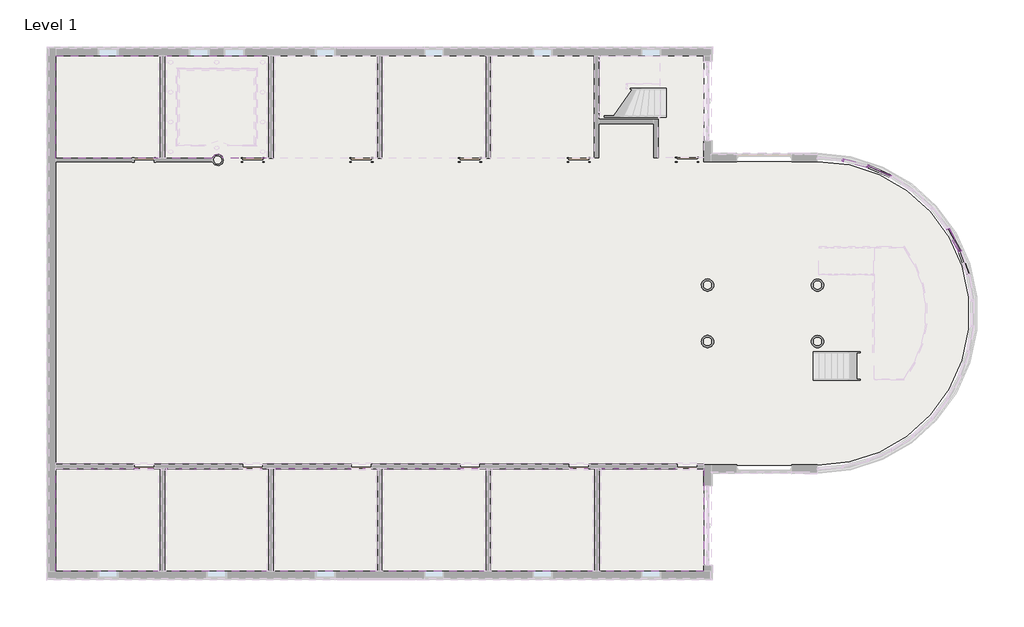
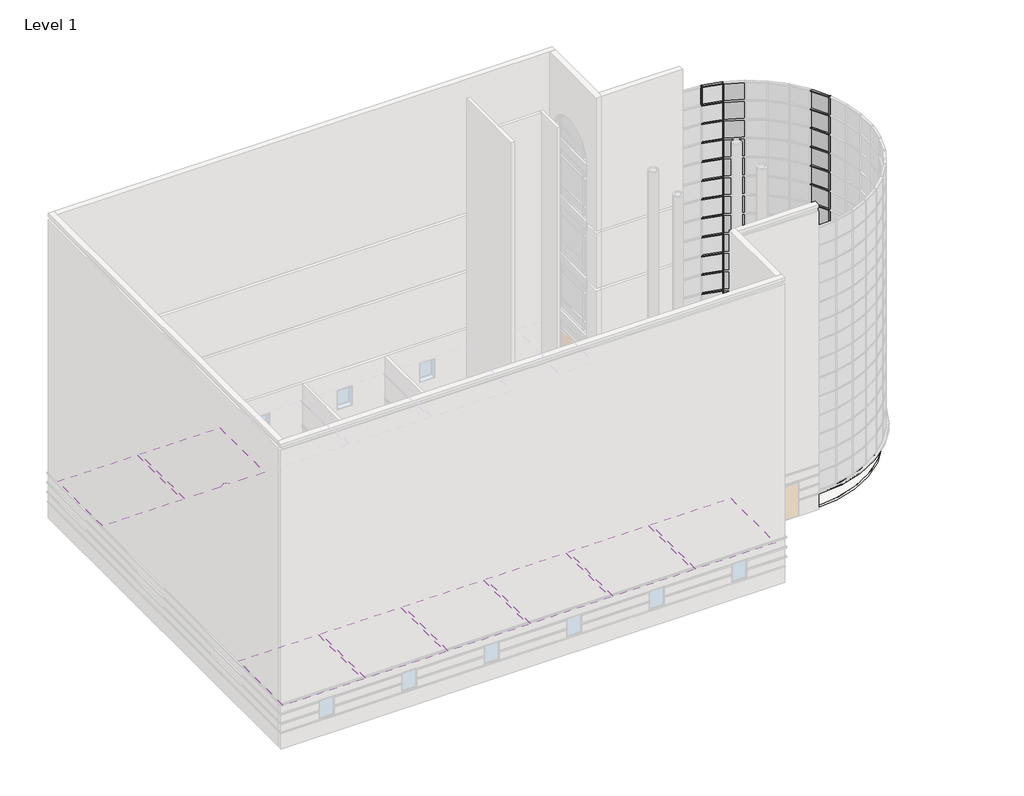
# One storey, part 15 of 20: 59 members, 28 plates, 8 coverings, 1 slab.
"""IFC4 building model written with IfcOpenShell, lengths in millimetres."""

from ifc_helpers import new_model, si_unit, point, frame, frame_2d, origin, place, context, project, spatial, polyline, circle_curve, trimmed, segment, composite_curve, outline, extrude, transform, mapped, element, save
from components import member_68fe8548, member_f830fa99, member_935f61b8, system_panel_glazed_da602fa6, system_panel_glazed_77fd207e

model = new_model("IFC4")

# Units and contexts
model_context = context("Model", 3, world=origin())
ifc_project = project(units=[si_unit("LENGTHUNIT", "METRE", prefix="MILLI")], contexts=[model_context])

# Site, building, storey
site = spatial("IfcSite", under=ifc_project)
building = spatial("IfcBuilding", under=site)
storey = spatial("IfcBuildingStorey", under=building, Name="Level 1", Elevation=0.0)

# Coverings
placement = place(None, origin())
element("IfcCovering", 1, ObjectType="2' x 4' ACT System", at=placement, inside=storey, context=model_context, shape_type="SweptSolid", body=[
    extrude(outline(polyline([(-17066.4410279, 4612.5398319), (-17066.4410279, 9333.7648319), (-12240.9701946, 9333.7648319), (-12240.9701946, 4612.5398319), (-17066.4410279, 4612.5398319)])), frame((0.0, 0.0, 2438.4), z_axis=(0.0, 0.0, 1.0), x_axis=(1.0, 0.0, 0.0)), (0.0, 0.0, 1.0), 57.15),
])
element("IfcCovering", 2, ObjectType="2' x 4' ACT System", at=placement, inside=storey, context=model_context, shape_type="SweptSolid", body=[
    extrude(outline(polyline([(12708.7089721, -9624.1601681), (12708.7089721, -14345.3851681), (7883.2381388, -14345.3851681), (7883.2381388, -9624.1601681), (12708.7089721, -9624.1601681)])), frame((0.0, 0.0, 2438.4), z_axis=(0.0, 0.0, 1.0), x_axis=(1.0, 0.0, 0.0)), (0.0, 0.0, 1.0), 57.15),
])
element("IfcCovering", 3, ObjectType="2' x 4' ACT System", at=placement, inside=storey, context=model_context, shape_type="SweptSolid", body=[
    extrude(outline(polyline([(7727.6631388, -14345.3851681), (2891.0798054, -14345.3851681), (2891.0798054, -9624.1601681), (7727.6631388, -9624.1601681), (7727.6631388, -14345.3851681)])), frame((0.0, 0.0, 2438.4), z_axis=(0.0, 0.0, 1.0), x_axis=(1.0, 0.0, 0.0)), (0.0, 0.0, 1.0), 57.15),
])
element("IfcCovering", 4, ObjectType="2' x 4' ACT System", at=placement, inside=storey, context=model_context, shape_type="SweptSolid", body=[
    extrude(outline(polyline([(2735.5048054, -14345.3851681), (-2101.0785279, -14345.3851681), (-2101.0785279, -9624.1601681), (2735.5048054, -9624.1601681), (2735.5048054, -14345.3851681)])), frame((0.0, 0.0, 2438.4), z_axis=(0.0, 0.0, 1.0), x_axis=(1.0, 0.0, 0.0)), (0.0, 0.0, 1.0), 57.15),
])
element("IfcCovering", 5, ObjectType="2' x 4' ACT System", at=placement, inside=storey, context=model_context, shape_type="SweptSolid", body=[
    extrude(outline(polyline([(-2256.6535279, -14345.3851681), (-7093.2368612, -14345.3851681), (-7093.2368612, -9624.1601681), (-2256.6535279, -9624.1601681), (-2256.6535279, -14345.3851681)])), frame((0.0, 0.0, 2438.4), z_axis=(0.0, 0.0, 1.0), x_axis=(1.0, 0.0, 0.0)), (0.0, 0.0, 1.0), 57.15),
])
element("IfcCovering", 6, ObjectType="2' x 4' ACT System", at=placement, inside=storey, context=model_context, shape_type="SweptSolid", body=[
    extrude(outline(polyline([(-7248.8118612, -14345.3851681), (-12085.3951946, -14345.3851681), (-12085.3951946, -9624.1601681), (-7248.8118612, -9624.1601681), (-7248.8118612, -14345.3851681)])), frame((0.0, 0.0, 2438.4), z_axis=(0.0, 0.0, 1.0), x_axis=(1.0, 0.0, 0.0)), (0.0, 0.0, 1.0), 57.15),
])
element("IfcCovering", 7, ObjectType="2' x 4' ACT System", at=placement, inside=storey, context=model_context, shape_type="SweptSolid", body=[
    extrude(outline(polyline([(-12240.9701946, -14345.3851681), (-17066.4410279, -14345.3851681), (-17066.4410279, -9624.1601681), (-12240.9701946, -9624.1601681), (-12240.9701946, -14345.3851681)])), frame((0.0, 0.0, 2438.4), z_axis=(0.0, 0.0, 1.0), x_axis=(1.0, 0.0, 0.0)), (0.0, 0.0, 1.0), 57.15),
])
element("IfcCovering", 8, ObjectType="GWB on Mtl. Stud", at=placement, inside=storey, context=model_context, shape_type="SweptSolid", body=[
    extrude(outline(composite_curve([segment(polyline([(-12085.3951946, 4612.5398319), (-12085.3951946, 9333.7648319), (-7248.8118612, 9333.7648319), (-7248.8118612, 4612.5398319), (-9370.870823, 4612.5398319)]), True, "CONTINUOUS"), segment(trimmed(circle_curve(frame_2d((-9622.6535279, 4534.7523319)), 263.525), [point((-9370.870823, 4612.5398319))], [point((-9874.4362328, 4612.5398319))], True, "CARTESIAN"), True, "CONTINUOUS"), segment(polyline([(-9874.4362328, 4612.5398319), (-12085.3951946, 4612.5398319)]), True, "CONTINUOUS")], self_intersect=False), holes=[composite_curve([segment(trimmed(circle_curve(frame_2d((-11780.5951946, 9028.9648319)), 101.6), [point((-11678.9951946, 9028.9648319))], [point((-11882.1951946, 9028.9648319))], True, "CARTESIAN"), True, "CONTINUOUS"), segment(trimmed(circle_curve(frame_2d((-11780.5951946, 9028.9648319)), 101.6), [point((-11882.1951946, 9028.9648319))], [point((-11678.9951946, 9028.9648319))], True, "CARTESIAN"), True, "CONTINUOUS")], self_intersect=False), composite_curve([segment(trimmed(circle_curve(frame_2d((-7553.6118612, 9028.9648319)), 101.6), [point((-7452.0118612, 9028.9648319))], [point((-7655.2118612, 9028.9648319))], True, "CARTESIAN"), True, "CONTINUOUS"), segment(trimmed(circle_curve(frame_2d((-7553.6118612, 9028.9648319)), 101.6), [point((-7655.2118612, 9028.9648319))], [point((-7452.0118612, 9028.9648319))], True, "CARTESIAN"), True, "CONTINUOUS")], self_intersect=False), composite_curve([segment(trimmed(circle_curve(frame_2d((-9667.1035279, 9028.9648319)), 101.6), [point((-9565.5035279, 9028.9648319))], [point((-9768.7035279, 9028.9648319))], True, "CARTESIAN"), True, "CONTINUOUS"), segment(trimmed(circle_curve(frame_2d((-9667.1035279, 9028.9648319)), 101.6), [point((-9768.7035279, 9028.9648319))], [point((-9565.5035279, 9028.9648319))], True, "CARTESIAN"), True, "CONTINUOUS")], self_intersect=False), composite_curve([segment(trimmed(circle_curve(frame_2d((-7553.6118612, 4917.3398319)), 101.6), [point((-7452.0118612, 4917.3398319))], [point((-7655.2118612, 4917.3398319))], True, "CARTESIAN"), True, "CONTINUOUS"), segment(trimmed(circle_curve(frame_2d((-7553.6118612, 4917.3398319)), 101.6), [point((-7655.2118612, 4917.3398319))], [point((-7452.0118612, 4917.3398319))], True, "CARTESIAN"), True, "CONTINUOUS")], self_intersect=False), composite_curve([segment(trimmed(circle_curve(frame_2d((-11780.5951946, 4917.3398319)), 101.6), [point((-11678.9951946, 4917.3398319))], [point((-11882.1951946, 4917.3398319))], True, "CARTESIAN"), True, "CONTINUOUS"), segment(trimmed(circle_curve(frame_2d((-11780.5951946, 4917.3398319)), 101.6), [point((-11882.1951946, 4917.3398319))], [point((-11678.9951946, 4917.3398319))], True, "CARTESIAN"), True, "CONTINUOUS")], self_intersect=False), composite_curve([segment(trimmed(circle_curve(frame_2d((-7553.6118612, 6287.8814986)), 101.6), [point((-7452.0118612, 6287.8814986))], [point((-7655.2118612, 6287.8814986))], True, "CARTESIAN"), True, "CONTINUOUS"), segment(trimmed(circle_curve(frame_2d((-7553.6118612, 6287.8814986)), 101.6), [point((-7655.2118612, 6287.8814986))], [point((-7452.0118612, 6287.8814986))], True, "CARTESIAN"), True, "CONTINUOUS")], self_intersect=False), composite_curve([segment(trimmed(circle_curve(frame_2d((-11780.5951946, 6287.8814986)), 101.6), [point((-11678.9951946, 6287.8814986))], [point((-11882.1951946, 6287.8814986))], True, "CARTESIAN"), True, "CONTINUOUS"), segment(trimmed(circle_curve(frame_2d((-11780.5951946, 6287.8814986)), 101.6), [point((-11882.1951946, 6287.8814986))], [point((-11678.9951946, 6287.8814986))], True, "CARTESIAN"), True, "CONTINUOUS")], self_intersect=False), composite_curve([segment(trimmed(circle_curve(frame_2d((-7553.6118612, 7658.4231653)), 101.6), [point((-7452.0118612, 7658.4231653))], [point((-7655.2118612, 7658.4231653))], True, "CARTESIAN"), True, "CONTINUOUS"), segment(trimmed(circle_curve(frame_2d((-7553.6118612, 7658.4231653)), 101.6), [point((-7655.2118612, 7658.4231653))], [point((-7452.0118612, 7658.4231653))], True, "CARTESIAN"), True, "CONTINUOUS")], self_intersect=False), composite_curve([segment(trimmed(circle_curve(frame_2d((-11780.5951946, 7658.4231653)), 101.6), [point((-11678.9951946, 7658.4231653))], [point((-11882.1951946, 7658.4231653))], True, "CARTESIAN"), True, "CONTINUOUS"), segment(trimmed(circle_curve(frame_2d((-11780.5951946, 7658.4231653)), 101.6), [point((-11882.1951946, 7658.4231653))], [point((-11678.9951946, 7658.4231653))], True, "CARTESIAN"), True, "CONTINUOUS")], self_intersect=False), composite_curve([segment(trimmed(circle_curve(frame_2d((-9667.1035279, 5095.1398319)), 101.6), [point((-9768.7035279, 5095.1398319))], [point((-9565.5035279, 5095.1398319))], True, "CARTESIAN"), True, "CONTINUOUS"), segment(trimmed(circle_curve(frame_2d((-9667.1035279, 5095.1398319)), 101.6), [point((-9565.5035279, 5095.1398319))], [point((-9768.7035279, 5095.1398319))], True, "CARTESIAN"), True, "CONTINUOUS")], self_intersect=False), composite_curve([segment(polyline([(-11475.7951946, 8724.1648319), (-11475.7951946, 5222.1398319), (-10161.0267167, 5222.1398319)]), True, "CONTINUOUS"), segment(trimmed(circle_curve(frame_2d((-9622.6535279, 4534.7523319)), 873.125), [point((-10161.0267167, 5222.1398319))], [point((-9084.2803391, 5222.1398319))], False, "CARTESIAN"), True, "CONTINUOUS"), segment(polyline([(-9084.2803391, 5222.1398319), (-7858.4118612, 5222.1398319), (-7858.4118612, 8724.1648319), (-11475.7951946, 8724.1648319)]), True, "CONTINUOUS")], self_intersect=False)]), frame((0.0, 0.0, 2438.4), z_axis=(0.0, 0.0, 1.0), x_axis=(1.0, 0.0, 0.0)), (0.0, 0.0, 1.0), 107.95),
])

# Members
member_shape = member_68fe8548(model_context)
element("IfcMember", 9, ObjectType="Rectangular Mullion : 2.5\" x 5\" rectangular", at=placement, inside=storey, context=model_context, shape_type="MappedRepresentation", body=[
    mapped(member_shape, transform((20225.1809709, 4254.1614601, 17983.2), x_axis=(0.0, 0.0, 1.0), y_axis=(-0.2454854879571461, -0.9694002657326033, 0.0), z_axis=(0.9694002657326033, -0.2454854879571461, 0.0))),
])
element("IfcMember", 10, ObjectType="Rectangular Mullion : 2.5\" x 5\" rectangular", at=placement, inside=storey, context=model_context, shape_type="MappedRepresentation", body=[
    mapped(member_shape, transform((24460.516975, 389.8117372, 17983.2), x_axis=(0.0, 0.0, 1.0), y_axis=(-0.8794737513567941, -0.47594739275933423, 0.0), z_axis=(0.47594739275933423, -0.8794737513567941, 0.0))),
])
element("IfcMember", 11, ObjectType="Rectangular Mullion : 2.5\" x 5\" rectangular", at=placement, inside=storey, context=model_context, shape_type="MappedRepresentation", body=[
    mapped(member_shape, transform((20285.0352325, 4233.6134661, 1092.2), x_axis=(0.0, 0.0, -1.0), y_axis=(-0.40169542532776, -0.9157733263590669, 0.0), z_axis=(-0.9157733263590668, 0.4016954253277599, 0.0))),
])
element("IfcMember", 12, ObjectType="Rectangular Mullion : 2.5\" x 5\" rectangular", at=placement, inside=storey, context=model_context, shape_type="MappedRepresentation", body=[
    mapped(member_shape, transform((24485.9375128, 331.8587482, 1092.2), x_axis=(0.0, 0.0, -1.0), y_axis=(-0.9458172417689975, -0.3246994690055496, 0.0), z_axis=(-0.3246994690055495, 0.9458172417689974, 0.0))),
])
member_2_shape = member_f830fa99(model_context)
element("IfcMember", 13, ObjectType="Rectangular Mullion : 2.5\" x 5\" rectangular", at=placement, inside=storey, context=model_context, shape_type="MappedRepresentation", body=[
    mapped(member_2_shape, transform((20225.1809709, 4254.1614601, 2298.7), x_axis=(0.0, 0.0, 1.0), y_axis=(-0.24548548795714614, -0.9694002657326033, 0.0), z_axis=(0.9694002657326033, -0.24548548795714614, 0.0))),
])
element("IfcMember", 14, ObjectType="Rectangular Mullion : 2.5\" x 5\" rectangular", at=placement, inside=storey, context=model_context, shape_type="MappedRepresentation", body=[
    mapped(member_2_shape, transform((24460.516975, 389.8117372, 2298.7), x_axis=(0.0, 0.0, 1.0), y_axis=(-0.8794737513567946, -0.47594739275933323, 0.0), z_axis=(0.47594739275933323, -0.8794737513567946, 0.0))),
])
element("IfcMember", 15, ObjectType="Rectangular Mullion : 2.5\" x 5\" rectangular", at=placement, inside=storey, context=model_context, shape_type="MappedRepresentation", body=[
    mapped(member_2_shape, transform((20225.1809709, 4254.1614601, 3505.2), x_axis=(0.0, 0.0, 1.0), y_axis=(-0.24548548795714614, -0.9694002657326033, 0.0), z_axis=(0.9694002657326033, -0.24548548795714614, 0.0))),
])
element("IfcMember", 16, ObjectType="Rectangular Mullion : 2.5\" x 5\" rectangular", at=placement, inside=storey, context=model_context, shape_type="MappedRepresentation", body=[
    mapped(member_2_shape, transform((24460.516975, 389.8117372, 3505.2), x_axis=(0.0, 0.0, 1.0), y_axis=(-0.8794737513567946, -0.47594739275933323, 0.0), z_axis=(0.47594739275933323, -0.8794737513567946, 0.0))),
])
element("IfcMember", 17, ObjectType="Rectangular Mullion : 2.5\" x 5\" rectangular", at=placement, inside=storey, context=model_context, shape_type="MappedRepresentation", body=[
    mapped(member_2_shape, transform((20225.1809709, 4254.1614601, 4711.7), x_axis=(0.0, 0.0, 1.0), y_axis=(-0.24548548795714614, -0.9694002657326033, 0.0), z_axis=(0.9694002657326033, -0.24548548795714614, 0.0))),
])
element("IfcMember", 18, ObjectType="Rectangular Mullion : 2.5\" x 5\" rectangular", at=placement, inside=storey, context=model_context, shape_type="MappedRepresentation", body=[
    mapped(member_2_shape, transform((24460.516975, 389.8117372, 4711.7), x_axis=(0.0, 0.0, 1.0), y_axis=(-0.8794737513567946, -0.47594739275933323, 0.0), z_axis=(0.47594739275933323, -0.8794737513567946, 0.0))),
])
element("IfcMember", 19, ObjectType="Rectangular Mullion : 2.5\" x 5\" rectangular", at=placement, inside=storey, context=model_context, shape_type="MappedRepresentation", body=[
    mapped(member_2_shape, transform((20225.1809709, 4254.1614601, 5918.2), x_axis=(0.0, 0.0, 1.0), y_axis=(-0.24548548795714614, -0.9694002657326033, 0.0), z_axis=(0.9694002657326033, -0.24548548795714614, 0.0))),
])
element("IfcMember", 20, ObjectType="Rectangular Mullion : 2.5\" x 5\" rectangular", at=placement, inside=storey, context=model_context, shape_type="MappedRepresentation", body=[
    mapped(member_2_shape, transform((24460.516975, 389.8117372, 5918.2), x_axis=(0.0, 0.0, 1.0), y_axis=(-0.8794737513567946, -0.47594739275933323, 0.0), z_axis=(0.47594739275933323, -0.8794737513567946, 0.0))),
])
element("IfcMember", 21, ObjectType="Rectangular Mullion : 2.5\" x 5\" rectangular", at=placement, inside=storey, context=model_context, shape_type="MappedRepresentation", body=[
    mapped(member_2_shape, transform((20225.1809709, 4254.1614601, 7124.7), x_axis=(0.0, 0.0, 1.0), y_axis=(-0.24548548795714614, -0.9694002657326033, 0.0), z_axis=(0.9694002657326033, -0.24548548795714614, 0.0))),
])
element("IfcMember", 22, ObjectType="Rectangular Mullion : 2.5\" x 5\" rectangular", at=placement, inside=storey, context=model_context, shape_type="MappedRepresentation", body=[
    mapped(member_2_shape, transform((24460.516975, 389.8117372, 7124.7), x_axis=(0.0, 0.0, 1.0), y_axis=(-0.8794737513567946, -0.47594739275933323, 0.0), z_axis=(0.47594739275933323, -0.8794737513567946, 0.0))),
])
element("IfcMember", 23, ObjectType="Rectangular Mullion : 2.5\" x 5\" rectangular", at=placement, inside=storey, context=model_context, shape_type="MappedRepresentation", body=[
    mapped(member_2_shape, transform((20225.1809709, 4254.1614601, 8331.2), x_axis=(0.0, 0.0, 1.0), y_axis=(-0.24548548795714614, -0.9694002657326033, 0.0), z_axis=(0.9694002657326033, -0.24548548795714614, 0.0))),
])
element("IfcMember", 24, ObjectType="Rectangular Mullion : 2.5\" x 5\" rectangular", at=placement, inside=storey, context=model_context, shape_type="MappedRepresentation", body=[
    mapped(member_2_shape, transform((24460.516975, 389.8117372, 8331.2), x_axis=(0.0, 0.0, 1.0), y_axis=(-0.8794737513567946, -0.47594739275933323, 0.0), z_axis=(0.47594739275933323, -0.8794737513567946, 0.0))),
])
element("IfcMember", 25, ObjectType="Rectangular Mullion : 2.5\" x 5\" rectangular", at=placement, inside=storey, context=model_context, shape_type="MappedRepresentation", body=[
    mapped(member_2_shape, transform((20225.1809709, 4254.1614601, 9537.7), x_axis=(0.0, 0.0, 1.0), y_axis=(-0.24548548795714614, -0.9694002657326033, 0.0), z_axis=(0.9694002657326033, -0.24548548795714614, 0.0))),
])
element("IfcMember", 26, ObjectType="Rectangular Mullion : 2.5\" x 5\" rectangular", at=placement, inside=storey, context=model_context, shape_type="MappedRepresentation", body=[
    mapped(member_2_shape, transform((24460.516975, 389.8117372, 9537.7), x_axis=(0.0, 0.0, 1.0), y_axis=(-0.8794737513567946, -0.47594739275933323, 0.0), z_axis=(0.47594739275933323, -0.8794737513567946, 0.0))),
])
element("IfcMember", 27, ObjectType="Rectangular Mullion : 2.5\" x 5\" rectangular", at=placement, inside=storey, context=model_context, shape_type="MappedRepresentation", body=[
    mapped(member_2_shape, transform((20225.1809709, 4254.1614601, 10744.2), x_axis=(0.0, 0.0, 1.0), y_axis=(-0.24548548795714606, -0.9694002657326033, 0.0), z_axis=(0.9694002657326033, -0.24548548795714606, 0.0))),
])
element("IfcMember", 28, ObjectType="Rectangular Mullion : 2.5\" x 5\" rectangular", at=placement, inside=storey, context=model_context, shape_type="MappedRepresentation", body=[
    mapped(member_2_shape, transform((24460.516975, 389.8117372, 10744.2), x_axis=(0.0, 0.0, 1.0), y_axis=(-0.8794737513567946, -0.47594739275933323, 0.0), z_axis=(0.47594739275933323, -0.8794737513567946, 0.0))),
])
element("IfcMember", 29, ObjectType="Rectangular Mullion : 2.5\" x 5\" rectangular", at=placement, inside=storey, context=model_context, shape_type="MappedRepresentation", body=[
    mapped(member_2_shape, transform((20225.1809709, 4254.1614601, 11950.7), x_axis=(0.0, 0.0, 1.0), y_axis=(-0.24548548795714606, -0.9694002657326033, 0.0), z_axis=(0.9694002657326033, -0.24548548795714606, 0.0))),
])
element("IfcMember", 30, ObjectType="Rectangular Mullion : 2.5\" x 5\" rectangular", at=placement, inside=storey, context=model_context, shape_type="MappedRepresentation", body=[
    mapped(member_2_shape, transform((24460.516975, 389.8117372, 11950.7), x_axis=(0.0, 0.0, 1.0), y_axis=(-0.879473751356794, -0.4759473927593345, 0.0), z_axis=(0.4759473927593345, -0.879473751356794, 0.0))),
])
element("IfcMember", 31, ObjectType="Rectangular Mullion : 2.5\" x 5\" rectangular", at=placement, inside=storey, context=model_context, shape_type="MappedRepresentation", body=[
    mapped(member_2_shape, transform((20225.1809709, 4254.1614601, 13157.2), x_axis=(0.0, 0.0, 1.0), y_axis=(-0.24548548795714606, -0.9694002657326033, 0.0), z_axis=(0.9694002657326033, -0.24548548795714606, 0.0))),
])
element("IfcMember", 32, ObjectType="Rectangular Mullion : 2.5\" x 5\" rectangular", at=placement, inside=storey, context=model_context, shape_type="MappedRepresentation", body=[
    mapped(member_2_shape, transform((24460.516975, 389.8117372, 13157.2), x_axis=(0.0, 0.0, 1.0), y_axis=(-0.879473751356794, -0.4759473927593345, 0.0), z_axis=(0.4759473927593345, -0.879473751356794, 0.0))),
])
element("IfcMember", 33, ObjectType="Rectangular Mullion : 2.5\" x 5\" rectangular", at=placement, inside=storey, context=model_context, shape_type="MappedRepresentation", body=[
    mapped(member_2_shape, transform((20225.1809709, 4254.1614601, 14363.7), x_axis=(0.0, 0.0, 1.0), y_axis=(-0.24548548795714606, -0.9694002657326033, 0.0), z_axis=(0.9694002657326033, -0.24548548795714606, 0.0))),
])
element("IfcMember", 34, ObjectType="Rectangular Mullion : 2.5\" x 5\" rectangular", at=placement, inside=storey, context=model_context, shape_type="MappedRepresentation", body=[
    mapped(member_2_shape, transform((24460.516975, 389.8117372, 14363.7), x_axis=(0.0, 0.0, 1.0), y_axis=(-0.879473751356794, -0.4759473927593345, 0.0), z_axis=(0.4759473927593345, -0.879473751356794, 0.0))),
])
element("IfcMember", 35, ObjectType="Rectangular Mullion : 2.5\" x 5\" rectangular", at=placement, inside=storey, context=model_context, shape_type="MappedRepresentation", body=[
    mapped(member_2_shape, transform((20225.1809709, 4254.1614601, 15570.2), x_axis=(0.0, 0.0, 1.0), y_axis=(-0.2454854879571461, -0.9694002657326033, 0.0), z_axis=(0.9694002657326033, -0.2454854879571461, 0.0))),
])
element("IfcMember", 36, ObjectType="Rectangular Mullion : 2.5\" x 5\" rectangular", at=placement, inside=storey, context=model_context, shape_type="MappedRepresentation", body=[
    mapped(member_2_shape, transform((24460.516975, 389.8117372, 15570.2), x_axis=(0.0, 0.0, 1.0), y_axis=(-0.8794737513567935, -0.47594739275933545, 0.0), z_axis=(0.47594739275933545, -0.8794737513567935, 0.0))),
])
element("IfcMember", 37, ObjectType="Rectangular Mullion : 2.5\" x 5\" rectangular", at=placement, inside=storey, context=model_context, shape_type="MappedRepresentation", body=[
    mapped(member_2_shape, transform((20225.1809709, 4254.1614601, 16776.7), x_axis=(0.0, 0.0, 1.0), y_axis=(-0.2454854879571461, -0.9694002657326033, 0.0), z_axis=(0.9694002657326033, -0.2454854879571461, 0.0))),
])
element("IfcMember", 38, ObjectType="Rectangular Mullion : 2.5\" x 5\" rectangular", at=placement, inside=storey, context=model_context, shape_type="MappedRepresentation", body=[
    mapped(member_2_shape, transform((24460.516975, 389.8117372, 16776.7), x_axis=(0.0, 0.0, 1.0), y_axis=(-0.8794737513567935, -0.47594739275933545, 0.0), z_axis=(0.47594739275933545, -0.8794737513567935, 0.0))),
])
member_3_shape = member_935f61b8(model_context)
element("IfcMember", 39, ObjectType="Rectangular Mullion : 2.5\" x 5\" rectangular", at=placement, inside=storey, context=model_context, shape_type="MappedRepresentation", body=[
    mapped(member_3_shape, transform((20255.9594293, 4246.3672959, 1092.2), x_axis=(0.9458172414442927, -0.32469946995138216, 0.0), y_axis=(-0.32469946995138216, -0.9458172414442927, 0.0), z_axis=(0.0, 0.0, -1.0))),
])
element("IfcMember", 40, ObjectType="Rectangular Mullion : 2.5\" x 5\" rectangular", at=placement, inside=storey, context=model_context, shape_type="MappedRepresentation", body=[
    mapped(member_3_shape, transform((24475.6283047, 361.8884456, 1092.2), x_axis=(0.40169542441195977, -0.915773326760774, 0.0), y_axis=(-0.915773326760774, -0.40169542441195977, 0.0), z_axis=(0.0, 0.0, -1.0))),
])
element("IfcMember", 41, ObjectType="Rectangular Mullion : 2.5\" x 5\" rectangular", at=placement, inside=storey, context=model_context, shape_type="MappedRepresentation", body=[
    mapped(member_3_shape, transform((20255.9594293, 4246.3672959, 2298.7), x_axis=(0.945817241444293, -0.3246994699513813, 0.0), y_axis=(-0.3246994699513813, -0.945817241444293, 0.0), z_axis=(0.0, 0.0, -1.0))),
])
element("IfcMember", 42, ObjectType="Rectangular Mullion : 2.5\" x 5\" rectangular", at=placement, inside=storey, context=model_context, shape_type="MappedRepresentation", body=[
    mapped(member_3_shape, transform((24475.6283047, 361.8884456, 2298.7), x_axis=(0.40169542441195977, -0.915773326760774, 0.0), y_axis=(-0.915773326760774, -0.40169542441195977, 0.0), z_axis=(0.0, 0.0, -1.0))),
])
element("IfcMember", 43, ObjectType="Rectangular Mullion : 2.5\" x 5\" rectangular", at=placement, inside=storey, context=model_context, shape_type="MappedRepresentation", body=[
    mapped(member_3_shape, transform((20255.9594293, 4246.3672959, 3505.2), x_axis=(0.945817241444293, -0.3246994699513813, 0.0), y_axis=(-0.3246994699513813, -0.945817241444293, 0.0), z_axis=(0.0, 0.0, -1.0))),
])
element("IfcMember", 44, ObjectType="Rectangular Mullion : 2.5\" x 5\" rectangular", at=placement, inside=storey, context=model_context, shape_type="MappedRepresentation", body=[
    mapped(member_3_shape, transform((24475.6283047, 361.8884456, 3505.2), x_axis=(0.4016954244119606, -0.9157733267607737, 0.0), y_axis=(-0.9157733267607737, -0.4016954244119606, 0.0), z_axis=(0.0, 0.0, -1.0))),
])
element("IfcMember", 45, ObjectType="Rectangular Mullion : 2.5\" x 5\" rectangular", at=placement, inside=storey, context=model_context, shape_type="MappedRepresentation", body=[
    mapped(member_3_shape, transform((20255.9594293, 4246.3672959, 4711.7), x_axis=(0.945817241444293, -0.3246994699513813, 0.0), y_axis=(-0.3246994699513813, -0.945817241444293, 0.0), z_axis=(0.0, 0.0, -1.0))),
])
element("IfcMember", 46, ObjectType="Rectangular Mullion : 2.5\" x 5\" rectangular", at=placement, inside=storey, context=model_context, shape_type="MappedRepresentation", body=[
    mapped(member_3_shape, transform((24475.6283047, 361.8884456, 4711.7), x_axis=(0.4016954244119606, -0.9157733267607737, 0.0), y_axis=(-0.9157733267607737, -0.4016954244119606, 0.0), z_axis=(0.0, 0.0, -1.0))),
])
element("IfcMember", 47, ObjectType="Rectangular Mullion : 2.5\" x 5\" rectangular", at=placement, inside=storey, context=model_context, shape_type="MappedRepresentation", body=[
    mapped(member_3_shape, transform((20255.9594293, 4246.3672959, 5918.2), x_axis=(0.945817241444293, -0.3246994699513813, 0.0), y_axis=(-0.3246994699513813, -0.945817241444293, 0.0), z_axis=(0.0, 0.0, -1.0))),
])
element("IfcMember", 48, ObjectType="Rectangular Mullion : 2.5\" x 5\" rectangular", at=placement, inside=storey, context=model_context, shape_type="MappedRepresentation", body=[
    mapped(member_3_shape, transform((24475.6283047, 361.8884456, 5918.2), x_axis=(0.4016954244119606, -0.9157733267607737, 0.0), y_axis=(-0.9157733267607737, -0.4016954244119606, 0.0), z_axis=(0.0, 0.0, -1.0))),
])
element("IfcMember", 49, ObjectType="Rectangular Mullion : 2.5\" x 5\" rectangular", at=placement, inside=storey, context=model_context, shape_type="MappedRepresentation", body=[
    mapped(member_3_shape, transform((20255.9594293, 4246.3672959, 7124.7), x_axis=(0.945817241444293, -0.3246994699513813, 0.0), y_axis=(-0.3246994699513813, -0.945817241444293, 0.0), z_axis=(0.0, 0.0, -1.0))),
])
element("IfcMember", 50, ObjectType="Rectangular Mullion : 2.5\" x 5\" rectangular", at=placement, inside=storey, context=model_context, shape_type="MappedRepresentation", body=[
    mapped(member_3_shape, transform((24475.6283047, 361.8884456, 7124.7), x_axis=(0.4016954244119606, -0.9157733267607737, 0.0), y_axis=(-0.9157733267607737, -0.4016954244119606, 0.0), z_axis=(0.0, 0.0, -1.0))),
])
element("IfcMember", 51, ObjectType="Rectangular Mullion : 2.5\" x 5\" rectangular", at=placement, inside=storey, context=model_context, shape_type="MappedRepresentation", body=[
    mapped(member_3_shape, transform((20255.9594293, 4246.3672959, 8331.2), x_axis=(0.945817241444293, -0.3246994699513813, 0.0), y_axis=(-0.3246994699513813, -0.945817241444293, 0.0), z_axis=(0.0, 0.0, -1.0))),
])
element("IfcMember", 52, ObjectType="Rectangular Mullion : 2.5\" x 5\" rectangular", at=placement, inside=storey, context=model_context, shape_type="MappedRepresentation", body=[
    mapped(member_3_shape, transform((24475.6283047, 361.8884456, 8331.2), x_axis=(0.4016954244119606, -0.9157733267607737, 0.0), y_axis=(-0.9157733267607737, -0.4016954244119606, 0.0), z_axis=(0.0, 0.0, -1.0))),
])
element("IfcMember", 53, ObjectType="Rectangular Mullion : 2.5\" x 5\" rectangular", at=placement, inside=storey, context=model_context, shape_type="MappedRepresentation", body=[
    mapped(member_3_shape, transform((20255.9594293, 4246.3672959, 9537.7), x_axis=(0.945817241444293, -0.3246994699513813, 0.0), y_axis=(-0.3246994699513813, -0.945817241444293, 0.0), z_axis=(0.0, 0.0, -1.0))),
])
element("IfcMember", 54, ObjectType="Rectangular Mullion : 2.5\" x 5\" rectangular", at=placement, inside=storey, context=model_context, shape_type="MappedRepresentation", body=[
    mapped(member_3_shape, transform((24475.6283047, 361.8884456, 9537.7), x_axis=(0.40169542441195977, -0.915773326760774, 0.0), y_axis=(-0.915773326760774, -0.40169542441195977, 0.0), z_axis=(0.0, 0.0, -1.0))),
])
element("IfcMember", 55, ObjectType="Rectangular Mullion : 2.5\" x 5\" rectangular", at=placement, inside=storey, context=model_context, shape_type="MappedRepresentation", body=[
    mapped(member_3_shape, transform((20255.9594293, 4246.3672959, 10744.2), x_axis=(0.945817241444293, -0.3246994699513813, 0.0), y_axis=(-0.3246994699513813, -0.945817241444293, 0.0), z_axis=(0.0, 0.0, -1.0))),
])
element("IfcMember", 56, ObjectType="Rectangular Mullion : 2.5\" x 5\" rectangular", at=placement, inside=storey, context=model_context, shape_type="MappedRepresentation", body=[
    mapped(member_3_shape, transform((24475.6283047, 361.8884456, 10744.2), x_axis=(0.40169542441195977, -0.915773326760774, 0.0), y_axis=(-0.915773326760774, -0.40169542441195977, 0.0), z_axis=(0.0, 0.0, -1.0))),
])
element("IfcMember", 57, ObjectType="Rectangular Mullion : 2.5\" x 5\" rectangular", at=placement, inside=storey, context=model_context, shape_type="MappedRepresentation", body=[
    mapped(member_3_shape, transform((20255.9594293, 4246.3672959, 11950.7), x_axis=(0.945817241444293, -0.3246994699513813, 0.0), y_axis=(-0.3246994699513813, -0.945817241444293, 0.0), z_axis=(0.0, 0.0, -1.0))),
])
element("IfcMember", 58, ObjectType="Rectangular Mullion : 2.5\" x 5\" rectangular", at=placement, inside=storey, context=model_context, shape_type="MappedRepresentation", body=[
    mapped(member_3_shape, transform((24475.6283047, 361.8884456, 11950.7), x_axis=(0.40169542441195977, -0.915773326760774, 0.0), y_axis=(-0.915773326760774, -0.40169542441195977, 0.0), z_axis=(0.0, 0.0, -1.0))),
])
element("IfcMember", 59, ObjectType="Rectangular Mullion : 2.5\" x 5\" rectangular", at=placement, inside=storey, context=model_context, shape_type="MappedRepresentation", body=[
    mapped(member_3_shape, transform((20255.9594293, 4246.3672959, 13157.2), x_axis=(0.945817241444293, -0.3246994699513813, 0.0), y_axis=(-0.3246994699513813, -0.945817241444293, 0.0), z_axis=(0.0, 0.0, -1.0))),
])
element("IfcMember", 60, ObjectType="Rectangular Mullion : 2.5\" x 5\" rectangular", at=placement, inside=storey, context=model_context, shape_type="MappedRepresentation", body=[
    mapped(member_3_shape, transform((24475.6283047, 361.8884456, 13157.2), x_axis=(0.40169542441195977, -0.915773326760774, 0.0), y_axis=(-0.915773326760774, -0.40169542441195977, 0.0), z_axis=(0.0, 0.0, -1.0))),
])
element("IfcMember", 61, ObjectType="Rectangular Mullion : 2.5\" x 5\" rectangular", at=placement, inside=storey, context=model_context, shape_type="MappedRepresentation", body=[
    mapped(member_3_shape, transform((20255.9594293, 4246.3672959, 14363.7), x_axis=(0.945817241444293, -0.3246994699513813, 0.0), y_axis=(-0.3246994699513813, -0.945817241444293, 0.0), z_axis=(0.0, 0.0, -1.0))),
])
element("IfcMember", 62, ObjectType="Rectangular Mullion : 2.5\" x 5\" rectangular", at=placement, inside=storey, context=model_context, shape_type="MappedRepresentation", body=[
    mapped(member_3_shape, transform((24475.6283047, 361.8884456, 14363.7), x_axis=(0.40169542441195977, -0.915773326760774, 0.0), y_axis=(-0.915773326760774, -0.40169542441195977, 0.0), z_axis=(0.0, 0.0, -1.0))),
])
element("IfcMember", 63, ObjectType="Rectangular Mullion : 2.5\" x 5\" rectangular", at=placement, inside=storey, context=model_context, shape_type="MappedRepresentation", body=[
    mapped(member_3_shape, transform((20255.9594293, 4246.3672959, 15570.2), x_axis=(0.9458172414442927, -0.32469946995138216, 0.0), y_axis=(-0.32469946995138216, -0.9458172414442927, 0.0), z_axis=(0.0, 0.0, -1.0))),
])
element("IfcMember", 64, ObjectType="Rectangular Mullion : 2.5\" x 5\" rectangular", at=placement, inside=storey, context=model_context, shape_type="MappedRepresentation", body=[
    mapped(member_3_shape, transform((24475.6283047, 361.8884456, 15570.2), x_axis=(0.40169542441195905, -0.9157733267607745, 0.0), y_axis=(-0.9157733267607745, -0.40169542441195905, 0.0), z_axis=(0.0, 0.0, -1.0))),
])
element("IfcMember", 65, ObjectType="Rectangular Mullion : 2.5\" x 5\" rectangular", at=placement, inside=storey, context=model_context, shape_type="MappedRepresentation", body=[
    mapped(member_3_shape, transform((19112.972701, 4535.8108464, 16776.7), x_axis=(0.9863613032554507, -0.16459459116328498, 0.0), y_axis=(-0.16459459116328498, -0.9863613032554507, 0.0), z_axis=(0.0, 0.0, -1.0))),
])
element("IfcMember", 66, ObjectType="Rectangular Mullion : 2.5\" x 5\" rectangular", at=placement, inside=storey, context=model_context, shape_type="MappedRepresentation", body=[
    mapped(member_3_shape, transform((20255.9594293, 4246.3672959, 16776.7), x_axis=(0.9458172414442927, -0.32469946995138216, 0.0), y_axis=(-0.32469946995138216, -0.9458172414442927, 0.0), z_axis=(0.0, 0.0, -1.0))),
])
element("IfcMember", 67, ObjectType="Rectangular Mullion : 2.5\" x 5\" rectangular", at=placement, inside=storey, context=model_context, shape_type="MappedRepresentation", body=[
    mapped(member_3_shape, transform((24475.6283047, 361.8884456, 16776.7), x_axis=(0.40169542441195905, -0.9157733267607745, 0.0), y_axis=(-0.9157733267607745, -0.40169542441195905, 0.0), z_axis=(0.0, 0.0, -1.0))),
])

# Plates
system_panel_glazed_shape = system_panel_glazed_da602fa6(model_context)
element("IfcPlate", 68, ObjectType="System Panel : Glazed", at=placement, inside=storey, context=model_context, shape_type="MappedRepresentation", body=[
    mapped(system_panel_glazed_shape, transform((20795.8379476, 4009.554621, 1155.7), x_axis=(0.9157733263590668, -0.40169542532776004, 0.0), y_axis=(0.40169542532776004, 0.9157733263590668, 0.0), z_axis=(0.0, 0.0, 1.0))),
])
element("IfcPlate", 69, ObjectType="System Panel : Glazed", at=placement, inside=storey, context=model_context, shape_type="MappedRepresentation", body=[
    mapped(system_panel_glazed_shape, transform((24195.041651, 880.3671697, 1155.7), x_axis=(0.4759473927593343, -0.8794737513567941, 0.0), y_axis=(0.8794737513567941, 0.4759473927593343, 0.0), z_axis=(0.0, 0.0, 1.0))),
])
element("IfcPlate", 70, ObjectType="System Panel : Glazed", at=placement, inside=storey, context=model_context, shape_type="MappedRepresentation", body=[
    mapped(system_panel_glazed_shape, transform((20795.8379476, 4009.554621, 16808.45), x_axis=(0.9157733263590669, -0.40169542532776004, 0.0), y_axis=(0.40169542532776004, 0.9157733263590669, 0.0), z_axis=(0.0, 0.0, 1.0))),
])
element("IfcPlate", 71, ObjectType="System Panel : Glazed", at=placement, inside=storey, context=model_context, shape_type="MappedRepresentation", body=[
    mapped(system_panel_glazed_shape, transform((24195.041651, 880.3671697, 16808.45), x_axis=(0.47594739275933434, -0.8794737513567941, 0.0), y_axis=(0.8794737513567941, 0.47594739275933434, 0.0), z_axis=(0.0, 0.0, 1.0))),
])
system_panel_glazed_2_shape = system_panel_glazed_77fd207e(model_context)
element("IfcPlate", 72, ObjectType="System Panel : Glazed", at=placement, inside=storey, context=model_context, shape_type="MappedRepresentation", body=[
    mapped(system_panel_glazed_2_shape, transform((20795.8379476, 4009.554621, 2330.45), x_axis=(0.9157733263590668, -0.40169542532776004, 0.0), y_axis=(0.40169542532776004, 0.9157733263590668, 0.0), z_axis=(0.0, 0.0, 1.0))),
])
element("IfcPlate", 73, ObjectType="System Panel : Glazed", at=placement, inside=storey, context=model_context, shape_type="MappedRepresentation", body=[
    mapped(system_panel_glazed_2_shape, transform((24195.041651, 880.3671697, 2330.45), x_axis=(0.47594739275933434, -0.8794737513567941, 0.0), y_axis=(0.8794737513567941, 0.47594739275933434, 0.0), z_axis=(0.0, 0.0, 1.0))),
])
element("IfcPlate", 74, ObjectType="System Panel : Glazed", at=placement, inside=storey, context=model_context, shape_type="MappedRepresentation", body=[
    mapped(system_panel_glazed_2_shape, transform((20795.8379476, 4009.554621, 3536.95), x_axis=(0.9157733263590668, -0.40169542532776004, 0.0), y_axis=(0.40169542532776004, 0.9157733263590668, 0.0), z_axis=(0.0, 0.0, 1.0))),
])
element("IfcPlate", 75, ObjectType="System Panel : Glazed", at=placement, inside=storey, context=model_context, shape_type="MappedRepresentation", body=[
    mapped(system_panel_glazed_2_shape, transform((24195.041651, 880.3671697, 3536.95), x_axis=(0.47594739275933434, -0.8794737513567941, 0.0), y_axis=(0.8794737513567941, 0.47594739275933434, 0.0), z_axis=(0.0, 0.0, 1.0))),
])
element("IfcPlate", 76, ObjectType="System Panel : Glazed", at=placement, inside=storey, context=model_context, shape_type="MappedRepresentation", body=[
    mapped(system_panel_glazed_2_shape, transform((20795.8379476, 4009.554621, 4743.45), x_axis=(0.9157733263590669, -0.40169542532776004, 0.0), y_axis=(0.40169542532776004, 0.9157733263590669, 0.0), z_axis=(0.0, 0.0, 1.0))),
])
element("IfcPlate", 77, ObjectType="System Panel : Glazed", at=placement, inside=storey, context=model_context, shape_type="MappedRepresentation", body=[
    mapped(system_panel_glazed_2_shape, transform((24195.041651, 880.3671697, 4743.45), x_axis=(0.4759473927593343, -0.8794737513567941, 0.0), y_axis=(0.8794737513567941, 0.4759473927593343, 0.0), z_axis=(0.0, 0.0, 1.0))),
])
element("IfcPlate", 78, ObjectType="System Panel : Glazed", at=placement, inside=storey, context=model_context, shape_type="MappedRepresentation", body=[
    mapped(system_panel_glazed_2_shape, transform((20795.8379476, 4009.554621, 5949.95), x_axis=(0.9157733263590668, -0.40169542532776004, 0.0), y_axis=(0.40169542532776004, 0.9157733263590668, 0.0), z_axis=(0.0, 0.0, 1.0))),
])
element("IfcPlate", 79, ObjectType="System Panel : Glazed", at=placement, inside=storey, context=model_context, shape_type="MappedRepresentation", body=[
    mapped(system_panel_glazed_2_shape, transform((24195.041651, 880.3671697, 5949.95), x_axis=(0.47594739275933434, -0.8794737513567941, 0.0), y_axis=(0.8794737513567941, 0.47594739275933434, 0.0), z_axis=(0.0, 0.0, 1.0))),
])
element("IfcPlate", 80, ObjectType="System Panel : Glazed", at=placement, inside=storey, context=model_context, shape_type="MappedRepresentation", body=[
    mapped(system_panel_glazed_2_shape, transform((20795.8379476, 4009.554621, 7156.45), x_axis=(0.9157733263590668, -0.40169542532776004, 0.0), y_axis=(0.40169542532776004, 0.9157733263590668, 0.0), z_axis=(0.0, 0.0, 1.0))),
])
element("IfcPlate", 81, ObjectType="System Panel : Glazed", at=placement, inside=storey, context=model_context, shape_type="MappedRepresentation", body=[
    mapped(system_panel_glazed_2_shape, transform((24195.041651, 880.3671697, 7156.45), x_axis=(0.47594739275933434, -0.8794737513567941, 0.0), y_axis=(0.8794737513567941, 0.47594739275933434, 0.0), z_axis=(0.0, 0.0, 1.0))),
])
element("IfcPlate", 82, ObjectType="System Panel : Glazed", at=placement, inside=storey, context=model_context, shape_type="MappedRepresentation", body=[
    mapped(system_panel_glazed_2_shape, transform((20795.8379476, 4009.554621, 8362.95), x_axis=(0.9157733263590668, -0.40169542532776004, 0.0), y_axis=(0.40169542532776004, 0.9157733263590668, 0.0), z_axis=(0.0, 0.0, 1.0))),
])
element("IfcPlate", 83, ObjectType="System Panel : Glazed", at=placement, inside=storey, context=model_context, shape_type="MappedRepresentation", body=[
    mapped(system_panel_glazed_2_shape, transform((24195.041651, 880.3671697, 8362.95), x_axis=(0.47594739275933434, -0.8794737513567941, 0.0), y_axis=(0.8794737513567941, 0.47594739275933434, 0.0), z_axis=(0.0, 0.0, 1.0))),
])
element("IfcPlate", 84, ObjectType="System Panel : Glazed", at=placement, inside=storey, context=model_context, shape_type="MappedRepresentation", body=[
    mapped(system_panel_glazed_2_shape, transform((20795.8379476, 4009.554621, 9569.45), x_axis=(0.9157733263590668, -0.40169542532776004, 0.0), y_axis=(0.40169542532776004, 0.9157733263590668, 0.0), z_axis=(0.0, 0.0, 1.0))),
])
element("IfcPlate", 85, ObjectType="System Panel : Glazed", at=placement, inside=storey, context=model_context, shape_type="MappedRepresentation", body=[
    mapped(system_panel_glazed_2_shape, transform((24195.041651, 880.3671697, 9569.45), x_axis=(0.4759473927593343, -0.8794737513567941, 0.0), y_axis=(0.8794737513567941, 0.4759473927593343, 0.0), z_axis=(0.0, 0.0, 1.0))),
])
element("IfcPlate", 86, ObjectType="System Panel : Glazed", at=placement, inside=storey, context=model_context, shape_type="MappedRepresentation", body=[
    mapped(system_panel_glazed_2_shape, transform((20795.8379476, 4009.554621, 10775.95), x_axis=(0.9157733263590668, -0.40169542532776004, 0.0), y_axis=(0.40169542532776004, 0.9157733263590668, 0.0), z_axis=(0.0, 0.0, 1.0))),
])
element("IfcPlate", 87, ObjectType="System Panel : Glazed", at=placement, inside=storey, context=model_context, shape_type="MappedRepresentation", body=[
    mapped(system_panel_glazed_2_shape, transform((24195.041651, 880.3671697, 10775.95), x_axis=(0.47594739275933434, -0.8794737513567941, 0.0), y_axis=(0.8794737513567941, 0.47594739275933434, 0.0), z_axis=(0.0, 0.0, 1.0))),
])
element("IfcPlate", 88, ObjectType="System Panel : Glazed", at=placement, inside=storey, context=model_context, shape_type="MappedRepresentation", body=[
    mapped(system_panel_glazed_2_shape, transform((20795.8379476, 4009.554621, 11982.45), x_axis=(0.9157733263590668, -0.40169542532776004, 0.0), y_axis=(0.40169542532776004, 0.9157733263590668, 0.0), z_axis=(0.0, 0.0, 1.0))),
])
element("IfcPlate", 89, ObjectType="System Panel : Glazed", at=placement, inside=storey, context=model_context, shape_type="MappedRepresentation", body=[
    mapped(system_panel_glazed_2_shape, transform((24195.041651, 880.3671697, 11982.45), x_axis=(0.47594739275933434, -0.8794737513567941, 0.0), y_axis=(0.8794737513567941, 0.47594739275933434, 0.0), z_axis=(0.0, 0.0, 1.0))),
])
element("IfcPlate", 90, ObjectType="System Panel : Glazed", at=placement, inside=storey, context=model_context, shape_type="MappedRepresentation", body=[
    mapped(system_panel_glazed_2_shape, transform((20795.8379476, 4009.554621, 13188.95), x_axis=(0.9157733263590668, -0.40169542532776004, 0.0), y_axis=(0.40169542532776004, 0.9157733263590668, 0.0), z_axis=(0.0, 0.0, 1.0))),
])
element("IfcPlate", 91, ObjectType="System Panel : Glazed", at=placement, inside=storey, context=model_context, shape_type="MappedRepresentation", body=[
    mapped(system_panel_glazed_2_shape, transform((24195.041651, 880.3671697, 13188.95), x_axis=(0.47594739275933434, -0.8794737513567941, 0.0), y_axis=(0.8794737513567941, 0.47594739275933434, 0.0), z_axis=(0.0, 0.0, 1.0))),
])
element("IfcPlate", 92, ObjectType="System Panel : Glazed", at=placement, inside=storey, context=model_context, shape_type="MappedRepresentation", body=[
    mapped(system_panel_glazed_2_shape, transform((20795.8379476, 4009.554621, 14395.45), x_axis=(0.9157733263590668, -0.40169542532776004, 0.0), y_axis=(0.40169542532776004, 0.9157733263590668, 0.0), z_axis=(0.0, 0.0, 1.0))),
])
element("IfcPlate", 93, ObjectType="System Panel : Glazed", at=placement, inside=storey, context=model_context, shape_type="MappedRepresentation", body=[
    mapped(system_panel_glazed_2_shape, transform((24195.041651, 880.3671697, 14395.45), x_axis=(0.47594739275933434, -0.8794737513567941, 0.0), y_axis=(0.8794737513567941, 0.47594739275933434, 0.0), z_axis=(0.0, 0.0, 1.0))),
])
element("IfcPlate", 94, ObjectType="System Panel : Glazed", at=placement, inside=storey, context=model_context, shape_type="MappedRepresentation", body=[
    mapped(system_panel_glazed_2_shape, transform((20795.8379476, 4009.554621, 15601.95), x_axis=(0.9157733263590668, -0.40169542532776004, 0.0), y_axis=(0.40169542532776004, 0.9157733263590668, 0.0), z_axis=(0.0, 0.0, 1.0))),
])
element("IfcPlate", 95, ObjectType="System Panel : Glazed", at=placement, inside=storey, context=model_context, shape_type="MappedRepresentation", body=[
    mapped(system_panel_glazed_2_shape, transform((24195.041651, 880.3671697, 15601.95), x_axis=(0.47594739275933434, -0.8794737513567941, 0.0), y_axis=(0.8794737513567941, 0.47594739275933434, 0.0), z_axis=(0.0, 0.0, 1.0))),
])

# Slab
element("IfcSlab", 96, ObjectType="6\" Slab on Grade", at=placement, inside=storey, context=model_context, shape_type="SweptSolid", body=[
    extrude(outline(composite_curve([segment(polyline([(-17079.1410279, 9346.4648319), (12721.4089721, 9346.4648319), (12721.4089721, 4469.6648319), (17937.9339721, 4469.6648319)]), True, "CONTINUOUS"), segment(trimmed(circle_curve(frame_2d((17937.9339721, -2505.8101681)), 6975.475), [point((17937.9339721, 4469.6648319))], [point((17937.9339721, -9481.2851681))], False, "CARTESIAN"), True, "CONTINUOUS"), segment(polyline([(17937.9339721, -9481.2851681), (12721.4089721, -9481.2851681), (12721.4089721, -14358.0851681), (-17079.1410279, -14358.0851681), (-17079.1410279, 9346.4648319)]), True, "CONTINUOUS")], self_intersect=False)), frame((0.0, 0.0, -152.4), z_axis=(0.0, 0.0, 1.0), x_axis=(1.0, 0.0, 0.0)), (0.0, 0.0, 1.0), 152.4),
])

save(model, "model.ifc")
